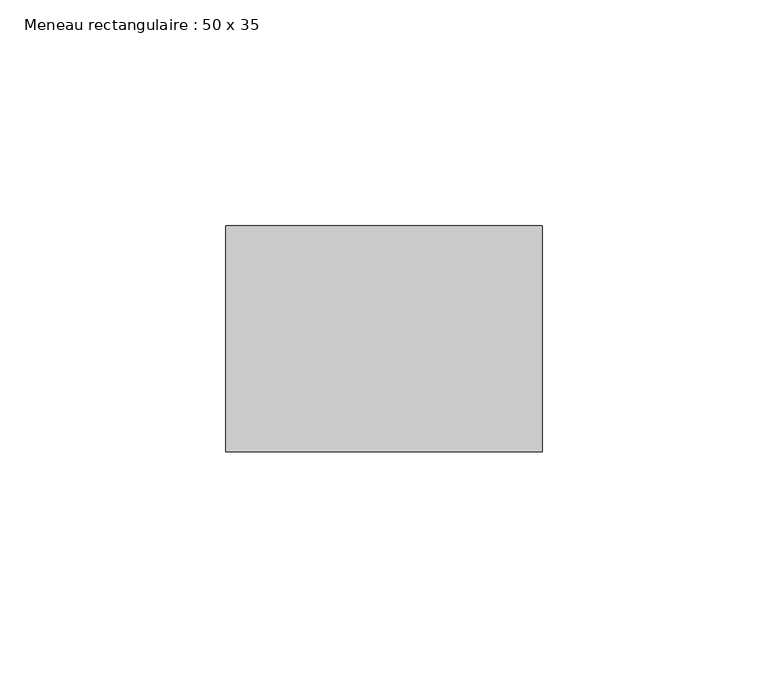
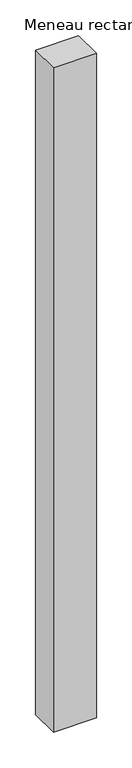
"""IFC4 building model written with IfcOpenShell, lengths in millimetres: member geometry, Meneau rectangulaire : 50 x 35."""

from ifc_helpers import new_model, si_unit, frame, origin, place, context, project, spatial, polyline, outline, extrude, source, transform, mapped, element, save


def meneau_rectangulaire_50_x_35_a8df0582(model_context):
    return source(origin(), model_context, "Body", "SweptSolid", [
        extrude(outline(polyline([(0.0, 0.0), (0.0, -50.0), (-70.0, -50.0), (-70.0, 0.0), (0.0, 0.0)])), frame((0.0, 0.0, -1137.0), z_axis=(0.0, 0.0, 1.0), x_axis=(1.0, 0.0, 0.0)), (0.0, 0.0, 1.0), 1137.0),
    ])


if __name__ == "__main__":
    model = new_model("IFC4")
    model_context = context("Model", 3, world=origin())
    ifc_project = project(units=[si_unit("LENGTHUNIT", "METRE", prefix="MILLI")], contexts=[model_context])
    site = spatial("IfcSite", under=ifc_project)
    building = spatial("IfcBuilding", under=site)
    placement = place(None, origin())
    meneau_rectangulaire_50_x_35_shape = meneau_rectangulaire_50_x_35_a8df0582(model_context)
    element("IfcMember", 1, ObjectType="Meneau rectangulaire : 50 x 35", at=placement, inside=building, context=model_context, shape_type="MappedRepresentation", body=[
        mapped(meneau_rectangulaire_50_x_35_shape, transform((0.0, 0.0, 0.0), x_axis=(1.0, 0.0, 0.0), y_axis=(0.0, 1.0, 0.0), z_axis=(0.0, 0.0, 1.0))),
    ])
    save(model, "model.ifc")
